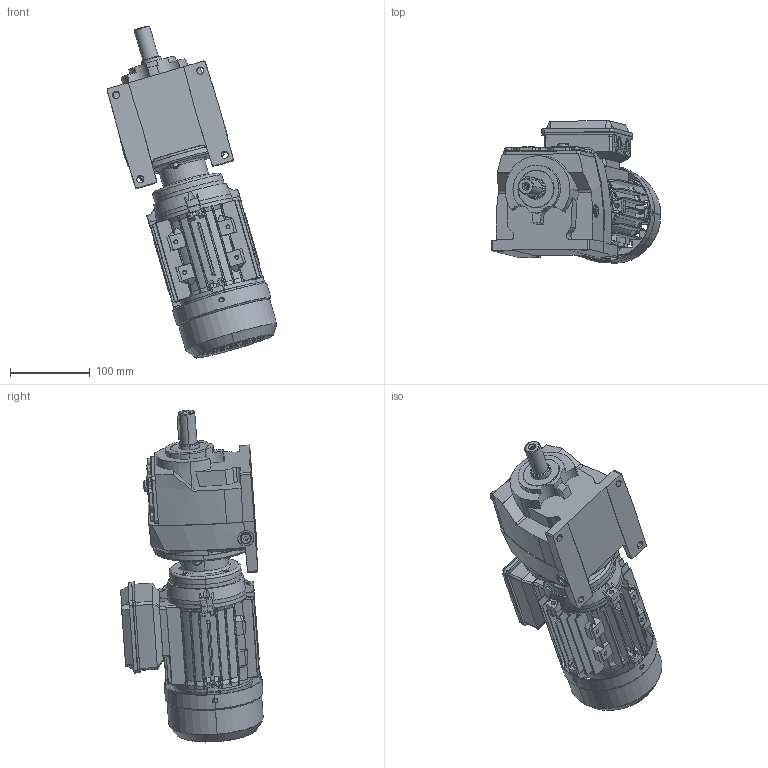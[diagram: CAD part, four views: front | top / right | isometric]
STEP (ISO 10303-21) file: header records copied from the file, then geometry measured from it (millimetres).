
FILE_DESCRIPTION (( 'STEP AP203' ), '1' );
FILE_NAME ('MV_003_0_MX-63.STEP', '2018-11-22T12:39:13', ( '' ), ( '' ), 'SwSTEP 2.0', 'SolidWorks 2012', '' );
FILE_SCHEMA (( 'CONFIG_CONTROL_DESIGN' ));
Length unit declared in the file: millimetre
Products named in the file (12): Klemmenkastendeckel_MS63; MX63_B14; MV_003_0_MX-63; L黤terfl黦el_MS63; Lüfterhaube_MS63; Klemmnkastenunterteil_MS63; B-Lagerschild_MS63; ML11A_Varsayìlan; Gehäuse_MS63; B14-Flansch_MS63; 0363B14_Varsayìlan; M003_Varsayìlan
Assembly tree (11 placements, depth 3):
  MV_003_0_MX-63
    M003_Varsayìlan
    0363B14_Varsayìlan
    ML11A_Varsayìlan
    MX63_B14
      Gehäuse_MS63
      B14-Flansch_MS63
      B-Lagerschild_MS63
      Lüfterhaube_MS63
      Klemmnkastenunterteil_MS63
      Klemmenkastendeckel_MS63
      L黤terfl黦el_MS63
Bounding box: 212.32 x 178.39 x 415.92 mm (x, y, z)
Volume: 2182157.9 mm3; surface area: 511821.6 mm2
Topology: 10 solids, 30 shells, 2133 faces, 5593 edges, 3565 vertices
Faces by surface type: plane 1015, cylinder 675, cone 334, bspline 101, torus 8
Entity records: 71055 total; most frequent: CARTESIAN_POINT 17319, ORIENTED_EDGE 11182, DIRECTION 10777, EDGE_CURVE 5591, AXIS2_PLACEMENT_3D 3892, VERTEX_POINT 3565, VECTOR 2993, LINE 2993
